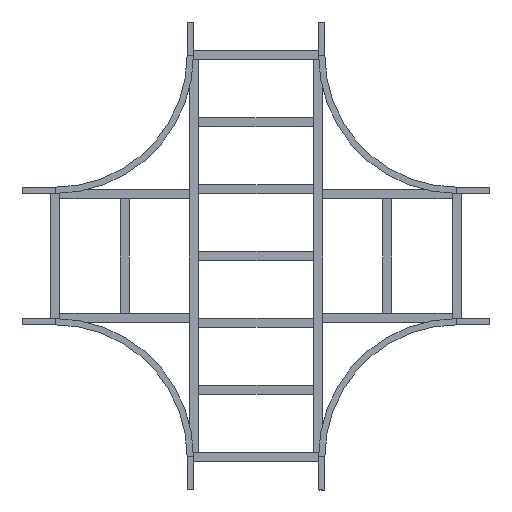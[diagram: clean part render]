
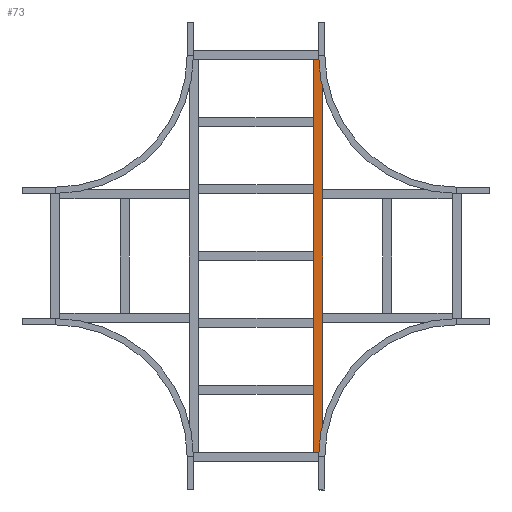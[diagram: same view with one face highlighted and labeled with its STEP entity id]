
A CAD part, front view. The second image highlights one B-rep face of the part: STEP entity #73.
In plain terms, the highlighted planar face has unit normal (0, -1, 0).
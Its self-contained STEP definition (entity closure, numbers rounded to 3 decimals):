
#38 = DIRECTION ( 'NONE',  ( -1., 0., 0. ) ) ;
#53 = ORIENTED_EDGE ( 'NONE', *, *, #2095, .T. ) ;
#73 = ADVANCED_FACE ( 'NONE', ( #812 ), #777, .F. ) ;
#154 = CARTESIAN_POINT ( 'NONE',  ( -879.75, 0., 20.25 ) ) ;
#277 = LINE ( 'NONE', #1301, #721 ) ;
#299 = DIRECTION ( 'NONE',  ( 0., 0., 1. ) ) ;
#602 = ORIENTED_EDGE ( 'NONE', *, *, #1020, .F. ) ;
#629 = CARTESIAN_POINT ( 'NONE',  ( 879.75, 0., -20.25 ) ) ;
#721 = VECTOR ( 'NONE', #38, 1000. ) ;
#766 = VERTEX_POINT ( 'NONE', #994 ) ;
#777 = PLANE ( 'NONE',  #1278 ) ;
#812 = FACE_OUTER_BOUND ( 'NONE', #1824, .T. ) ;
#827 = ORIENTED_EDGE ( 'NONE', *, *, #1262, .F. ) ;
#994 = CARTESIAN_POINT ( 'NONE',  ( 879.75, 0., -20.25 ) ) ;
#1020 = EDGE_CURVE ( 'NONE', #766, #1182, #2227, .T. ) ;
#1112 = LINE ( 'NONE', #2109, #1725 ) ;
#1182 = VERTEX_POINT ( 'NONE', #2867 ) ;
#1249 = DIRECTION ( 'NONE',  ( -1., 0., 0. ) ) ;
#1262 = EDGE_CURVE ( 'NONE', #2392, #766, #1112, .T. ) ;
#1278 = AXIS2_PLACEMENT_3D ( 'NONE', #2837, #2779, #299 ) ;
#1301 = CARTESIAN_POINT ( 'NONE',  ( 879.75, 0., 20.25 ) ) ;
#1683 = VECTOR ( 'NONE', #1249, 1000. ) ;
#1725 = VECTOR ( 'NONE', #3116, 1000. ) ;
#1730 = VERTEX_POINT ( 'NONE', #2927 ) ;
#1824 = EDGE_LOOP ( 'NONE', ( #53, #602, #827, #2601 ) ) ;
#1883 = EDGE_CURVE ( 'NONE', #2392, #1730, #277, .T. ) ;
#2095 = EDGE_CURVE ( 'NONE', #1730, #1182, #2940, .T. ) ;
#2109 = CARTESIAN_POINT ( 'NONE',  ( 879.75, 0., 20.25 ) ) ;
#2227 = LINE ( 'NONE', #629, #1683 ) ;
#2233 = VECTOR ( 'NONE', #3200, 1000. ) ;
#2392 = VERTEX_POINT ( 'NONE', #2638 ) ;
#2601 = ORIENTED_EDGE ( 'NONE', *, *, #1883, .T. ) ;
#2638 = CARTESIAN_POINT ( 'NONE',  ( 879.75, 0., 20.25 ) ) ;
#2779 = DIRECTION ( 'NONE',  ( 0., 1., 0. ) ) ;
#2837 = CARTESIAN_POINT ( 'NONE',  ( 879.75, 0., 20.25 ) ) ;
#2867 = CARTESIAN_POINT ( 'NONE',  ( -879.75, 0., -20.25 ) ) ;
#2927 = CARTESIAN_POINT ( 'NONE',  ( -879.75, 0., 20.25 ) ) ;
#2940 = LINE ( 'NONE', #154, #2233 ) ;
#3116 = DIRECTION ( 'NONE',  ( 0., 0., -1. ) ) ;
#3200 = DIRECTION ( 'NONE',  ( 0., 0., -1. ) ) ;
